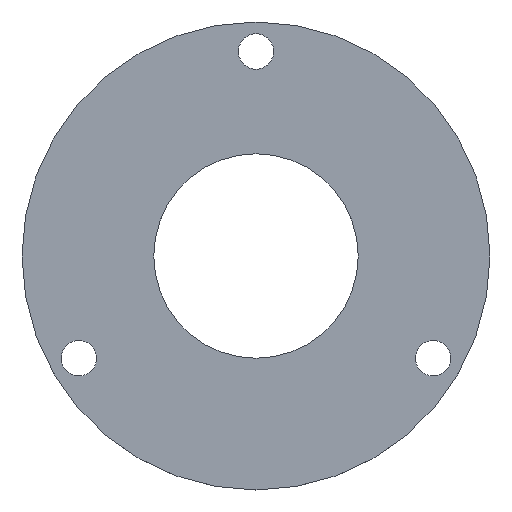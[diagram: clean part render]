
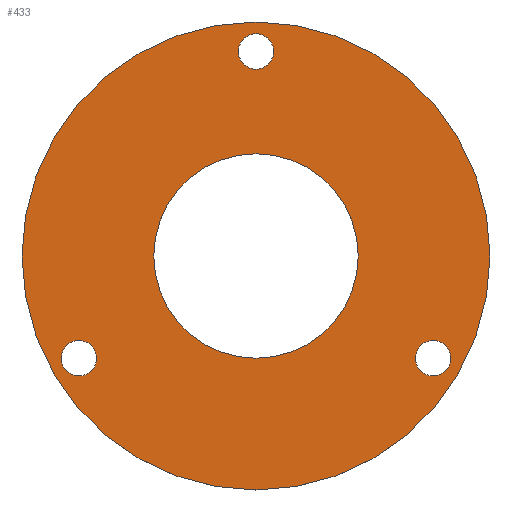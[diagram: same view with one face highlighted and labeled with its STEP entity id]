
A CAD part, top view. The second image highlights one B-rep face of the part: STEP entity #433.
In plain terms, the highlighted planar face has unit normal (0, 0, 1).
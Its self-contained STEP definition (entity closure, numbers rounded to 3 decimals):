
#6 = DIRECTION ( 'NONE',  ( -1., 0., 0. ) ) ;
#11 = CARTESIAN_POINT ( 'NONE',  ( 20.267, -13., 0. ) ) ;
#15 = CIRCLE ( 'NONE', #72, 13. ) ;
#23 = VERTEX_POINT ( 'NONE', #63 ) ;
#24 = CARTESIAN_POINT ( 'NONE',  ( 29.75, 0., 0. ) ) ;
#27 = CARTESIAN_POINT ( 'NONE',  ( 0., 26., 0. ) ) ;
#29 = VERTEX_POINT ( 'NONE', #296 ) ;
#31 = DIRECTION ( 'NONE',  ( 1., 0., 0. ) ) ;
#39 = DIRECTION ( 'NONE',  ( 0., 0., 1. ) ) ;
#46 = EDGE_CURVE ( 'NONE', #168, #345, #231, .T. ) ;
#48 = DIRECTION ( 'NONE',  ( 1., 0., 0. ) ) ;
#50 = CIRCLE ( 'NONE', #223, 2.25 ) ;
#54 = EDGE_LOOP ( 'NONE', ( #294, #133 ) ) ;
#55 = DIRECTION ( 'NONE',  ( 0., 0., 1. ) ) ;
#58 = CARTESIAN_POINT ( 'NONE',  ( -29.75, 0., 0. ) ) ;
#63 = CARTESIAN_POINT ( 'NONE',  ( -24.767, -13., 0. ) ) ;
#71 = VERTEX_POINT ( 'NONE', #185 ) ;
#72 = AXIS2_PLACEMENT_3D ( 'NONE', #112, #252, #48 ) ;
#77 = AXIS2_PLACEMENT_3D ( 'NONE', #27, #55, #427 ) ;
#79 = EDGE_CURVE ( 'NONE', #29, #378, #15, .T. ) ;
#83 = AXIS2_PLACEMENT_3D ( 'NONE', #115, #154, #415 ) ;
#85 = VERTEX_POINT ( 'NONE', #383 ) ;
#87 = EDGE_CURVE ( 'NONE', #262, #315, #326, .T. ) ;
#95 = EDGE_LOOP ( 'NONE', ( #404, #97 ) ) ;
#97 = ORIENTED_EDGE ( 'NONE', *, *, #372, .T. ) ;
#98 = AXIS2_PLACEMENT_3D ( 'NONE', #129, #355, #124 ) ;
#102 = DIRECTION ( 'NONE',  ( 1., 0., 0. ) ) ;
#105 = AXIS2_PLACEMENT_3D ( 'NONE', #280, #412, #110 ) ;
#110 = DIRECTION ( 'NONE',  ( 1., 0., 0. ) ) ;
#112 = CARTESIAN_POINT ( 'NONE',  ( 0., 0., 0. ) ) ;
#115 = CARTESIAN_POINT ( 'NONE',  ( 0., 0., 0. ) ) ;
#124 = DIRECTION ( 'NONE',  ( 1., 0., 0. ) ) ;
#126 = CIRCLE ( 'NONE', #105, 2.25 ) ;
#129 = CARTESIAN_POINT ( 'NONE',  ( 0., 0., 0. ) ) ;
#133 = ORIENTED_EDGE ( 'NONE', *, *, #212, .F. ) ;
#136 = FACE_OUTER_BOUND ( 'NONE', #95, .T. ) ;
#142 = DIRECTION ( 'NONE',  ( 0., 0., 1. ) ) ;
#154 = DIRECTION ( 'NONE',  ( 0., 0., 1. ) ) ;
#155 = AXIS2_PLACEMENT_3D ( 'NONE', #237, #142, #299 ) ;
#157 = CARTESIAN_POINT ( 'NONE',  ( -22.517, -13., 0. ) ) ;
#160 = ORIENTED_EDGE ( 'NONE', *, *, #183, .F. ) ;
#161 = CARTESIAN_POINT ( 'NONE',  ( 0., 26., 0. ) ) ;
#168 = VERTEX_POINT ( 'NONE', #11 ) ;
#183 = EDGE_CURVE ( 'NONE', #345, #168, #126, .T. ) ;
#185 = CARTESIAN_POINT ( 'NONE',  ( 2.25, 26., 0. ) ) ;
#203 = CARTESIAN_POINT ( 'NONE',  ( -13., 0., 0. ) ) ;
#212 = EDGE_CURVE ( 'NONE', #378, #29, #393, .T. ) ;
#223 = AXIS2_PLACEMENT_3D ( 'NONE', #161, #225, #31 ) ;
#224 = ORIENTED_EDGE ( 'NONE', *, *, #226, .F. ) ;
#225 = DIRECTION ( 'NONE',  ( 0., 0., 1. ) ) ;
#226 = EDGE_CURVE ( 'NONE', #371, #71, #249, .T. ) ;
#228 = ORIENTED_EDGE ( 'NONE', *, *, #46, .F. ) ;
#231 = CIRCLE ( 'NONE', #358, 2.25 ) ;
#232 = PLANE ( 'NONE',  #312 ) ;
#237 = CARTESIAN_POINT ( 'NONE',  ( -22.517, -13., 0. ) ) ;
#249 = CIRCLE ( 'NONE', #77, 2.25 ) ;
#252 = DIRECTION ( 'NONE',  ( 0., 0., 1. ) ) ;
#262 = VERTEX_POINT ( 'NONE', #24 ) ;
#267 = EDGE_CURVE ( 'NONE', #71, #371, #50, .T. ) ;
#272 = FACE_BOUND ( 'NONE', #356, .T. ) ;
#278 = FACE_BOUND ( 'NONE', #432, .T. ) ;
#280 = CARTESIAN_POINT ( 'NONE',  ( 22.517, -13., 0. ) ) ;
#288 = DIRECTION ( 'NONE',  ( 1., 0., 0. ) ) ;
#291 = ORIENTED_EDGE ( 'NONE', *, *, #267, .F. ) ;
#294 = ORIENTED_EDGE ( 'NONE', *, *, #79, .F. ) ;
#296 = CARTESIAN_POINT ( 'NONE',  ( 13., 0., 0. ) ) ;
#299 = DIRECTION ( 'NONE',  ( 1., 0., 0. ) ) ;
#302 = EDGE_CURVE ( 'NONE', #85, #23, #408, .T. ) ;
#303 = CARTESIAN_POINT ( 'NONE',  ( -2.25, 26., 0. ) ) ;
#312 = AXIS2_PLACEMENT_3D ( 'NONE', #368, #332, #6 ) ;
#315 = VERTEX_POINT ( 'NONE', #58 ) ;
#320 = CIRCLE ( 'NONE', #155, 2.25 ) ;
#326 = CIRCLE ( 'NONE', #83, 29.75 ) ;
#330 = DIRECTION ( 'NONE',  ( 0., 0., 1. ) ) ;
#332 = DIRECTION ( 'NONE',  ( 0., 0., -1. ) ) ;
#338 = CARTESIAN_POINT ( 'NONE',  ( 0., 0., 0. ) ) ;
#345 = VERTEX_POINT ( 'NONE', #405 ) ;
#355 = DIRECTION ( 'NONE',  ( 0., 0., 1. ) ) ;
#356 = EDGE_LOOP ( 'NONE', ( #428, #361 ) ) ;
#358 = AXIS2_PLACEMENT_3D ( 'NONE', #397, #423, #380 ) ;
#360 = AXIS2_PLACEMENT_3D ( 'NONE', #157, #330, #288 ) ;
#361 = ORIENTED_EDGE ( 'NONE', *, *, #422, .F. ) ;
#367 = EDGE_LOOP ( 'NONE', ( #291, #224 ) ) ;
#368 = CARTESIAN_POINT ( 'NONE',  ( 0., 13., 0. ) ) ;
#371 = VERTEX_POINT ( 'NONE', #303 ) ;
#372 = EDGE_CURVE ( 'NONE', #315, #262, #386, .T. ) ;
#373 = FACE_BOUND ( 'NONE', #54, .T. ) ;
#378 = VERTEX_POINT ( 'NONE', #203 ) ;
#380 = DIRECTION ( 'NONE',  ( 1., 0., 0. ) ) ;
#383 = CARTESIAN_POINT ( 'NONE',  ( -20.267, -13., 0. ) ) ;
#386 = CIRCLE ( 'NONE', #431, 29.75 ) ;
#393 = CIRCLE ( 'NONE', #98, 13. ) ;
#397 = CARTESIAN_POINT ( 'NONE',  ( 22.517, -13., 0. ) ) ;
#404 = ORIENTED_EDGE ( 'NONE', *, *, #87, .T. ) ;
#405 = CARTESIAN_POINT ( 'NONE',  ( 24.767, -13., 0. ) ) ;
#408 = CIRCLE ( 'NONE', #360, 2.25 ) ;
#410 = FACE_BOUND ( 'NONE', #367, .T. ) ;
#412 = DIRECTION ( 'NONE',  ( 0., 0., 1. ) ) ;
#415 = DIRECTION ( 'NONE',  ( 1., 0., 0. ) ) ;
#422 = EDGE_CURVE ( 'NONE', #23, #85, #320, .T. ) ;
#423 = DIRECTION ( 'NONE',  ( 0., 0., 1. ) ) ;
#427 = DIRECTION ( 'NONE',  ( 1., 0., 0. ) ) ;
#428 = ORIENTED_EDGE ( 'NONE', *, *, #302, .F. ) ;
#431 = AXIS2_PLACEMENT_3D ( 'NONE', #338, #39, #102 ) ;
#432 = EDGE_LOOP ( 'NONE', ( #160, #228 ) ) ;
#433 = ADVANCED_FACE ( 'NONE', ( #278, #373, #136, #410, #272 ), #232, .F. ) ;
